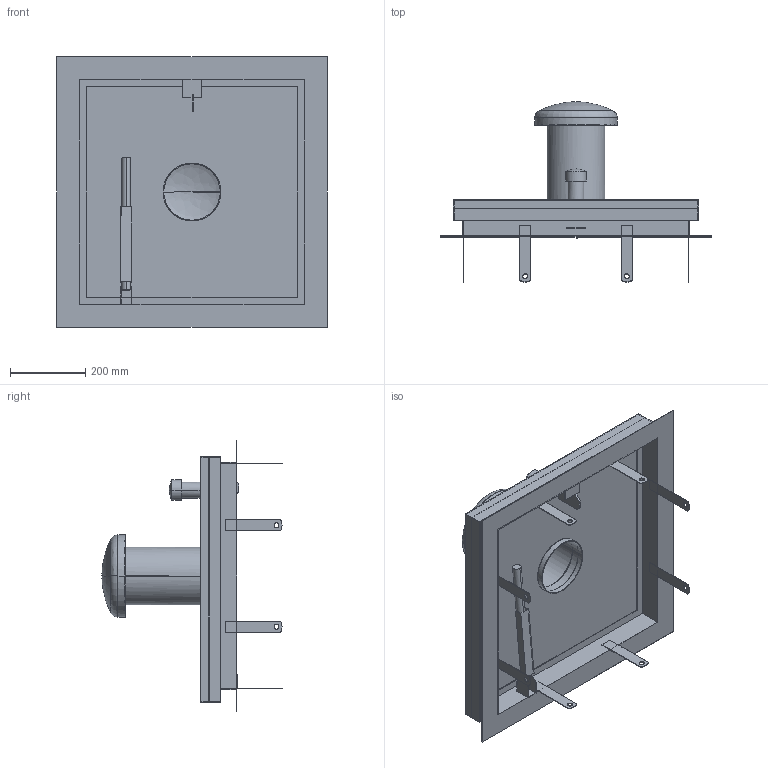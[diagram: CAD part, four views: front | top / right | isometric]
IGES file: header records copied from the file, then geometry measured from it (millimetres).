
Start section:  PTC IGES file: 52335827.igs
Global section: file name: 52335827.igs; native system: Creo Parametric by PTC Inc.; preprocessor: 2022162; author: wep; organization: Unknown; date: 20241219.072007; units: millimetre
Bounding box: 720 x 479 x 720 mm (x, y, z)
Surface area: 3123029.8 mm2 (no closed solid volume)
Topology: 0 solids, 0 shells, 757 faces, 4090 edges, 4084 vertices
Faces by surface type: bspline 425, extrusion 275, revolution 57
